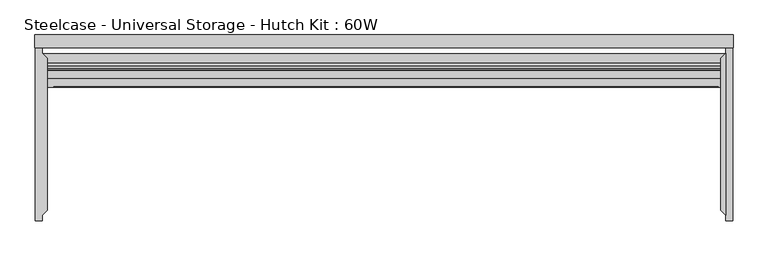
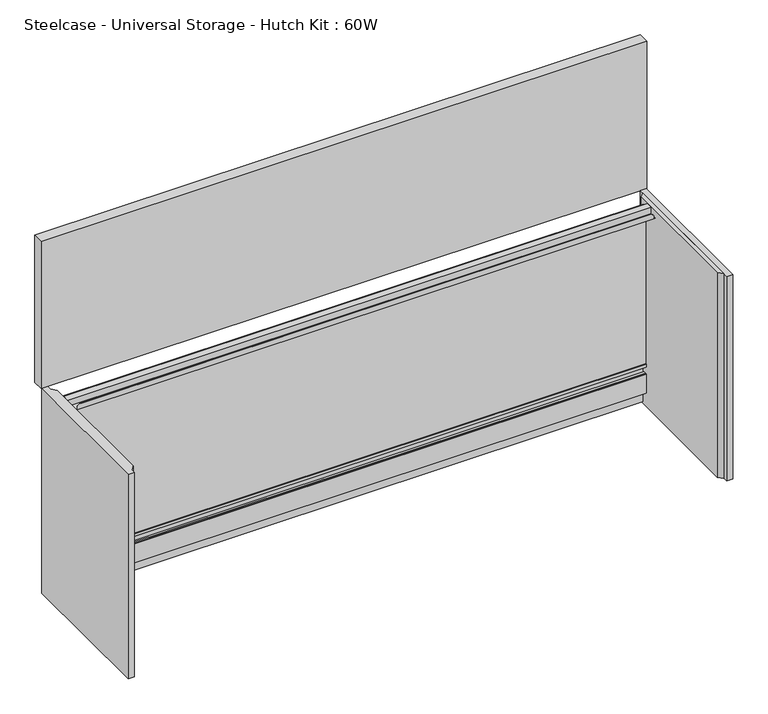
"""IFC4 building model written with IfcOpenShell, lengths in millimetres: furniture geometry, Steelcase - Universal Storage - Hutch Kit : 60W."""

import ifcopenshell
import ifcopenshell.guid

model = None  # the IFC model being written
_history = None  # IfcOwnerHistory: only IFC2X3 demands one
_inside = {}  # id of a spatial element -> (the spatial element, [elements in it])
_under = {}  # id of a project, library or spatial element -> (it, [spatial elements below it])
_declared = {}  # id of a project -> (the project, [libraries it declares])
_typed = {}  # id of a type object -> (the type object, [elements of that type])
_made_of = {}  # id of a material, layer set ... -> (it, [elements and type objects made of it])


def new_model(schema):
    """Start an empty IFC model of exactly this schema.

    Asked for "IFC4X3", IfcOpenShell would pick the latest addendum, in which some entities
    have other attributes; the version numbers below select the first issue.
    IFC2X3 requires an IfcOwnerHistory on every rooted entity: one is made here for all.
    """
    global model, _history
    if schema == "IFC4X3":
        model = ifcopenshell.file(schema_version=(4, 3, 0, 0))
    else:
        model = ifcopenshell.file(schema=schema)
    _inside.clear()
    _under.clear()
    _declared.clear()
    _typed.clear()
    _made_of.clear()
    _history = None
    if model.schema == "IFC2X3":
        org = make("IfcOrganization", Name="unknown")
        user = make(
            "IfcPersonAndOrganization",
            ThePerson=make("IfcPerson", FamilyName="unknown"),
            TheOrganization=org,
        )
        app = make(
            "IfcApplication",
            ApplicationDeveloper=org,
            Version="unknown",
            ApplicationFullName="unknown",
            ApplicationIdentifier="unknown",
        )
        _history = make(
            "IfcOwnerHistory",
            OwningUser=user,
            OwningApplication=app,
            ChangeAction="ADDED",
            CreationDate=0,
        )
    return model


def make(cls, **values):
    """One entity of the class cls with the attributes given. An attribute that is None is left unset."""
    return model.create_entity(
        cls, **{name: value for name, value in values.items() if value is not None}
    )


def rooted(cls, **values):
    """An entity with a GlobalId (a new one), such as an element, a storey or a relation."""
    return make(cls, GlobalId=ifcopenshell.guid.new(), OwnerHistory=_history, **values)


def si_unit(unit_type, name, prefix=None):
    """IfcSIUnit, for example si_unit("LENGTHUNIT", "METRE", prefix="MILLI")."""
    return make("IfcSIUnit", UnitType=unit_type, Prefix=prefix, Name=name)


def assignment(units):
    """IfcUnitAssignment: the units of a project."""
    return None if units is None else make("IfcUnitAssignment", Units=units)


def point(xyz):
    """IfcCartesianPoint."""
    return None if xyz is None else make("IfcCartesianPoint", Coordinates=xyz)


def direction(xyz):
    """IfcDirection."""
    return None if xyz is None else make("IfcDirection", DirectionRatios=xyz)


def frame(location, z_axis=None, x_axis=None):
    """IfcAxis2Placement3D, a coordinate frame: its origin and axes. An axis left out is left unset."""
    return make(
        "IfcAxis2Placement3D",
        Location=point(location),
        Axis=direction(z_axis),
        RefDirection=direction(x_axis),
    )


def origin():
    """The frame at (0, 0, 0) with its axes left unset."""
    return frame((0.0, 0.0, 0.0))


def place(relative_to, where):
    """IfcLocalPlacement: puts the frame where relative to a parent placement (None: the world)."""
    return make(
        "IfcLocalPlacement", PlacementRelTo=relative_to, RelativePlacement=where
    )


def context(
    kind, dimensions, precision=None, world=None, true_north=None, identifier=None
):
    """IfcGeometricRepresentationContext, for example the 3D "Model" context."""
    return make(
        "IfcGeometricRepresentationContext",
        ContextIdentifier=identifier,
        ContextType=kind,
        CoordinateSpaceDimension=dimensions,
        Precision=precision,
        WorldCoordinateSystem=world,
        TrueNorth=true_north,
    )


def project(units=None, contexts=None):
    """IfcProject with its units and contexts."""
    return rooted(
        "IfcProject",
        Name="project",
        RepresentationContexts=contexts,
        UnitsInContext=assignment(units),
    )


def spatial(cls, under=None, at=None, **own):
    """A site, building, storey or space (cls), placed at a placement, below another one or the project."""
    s = rooted(cls, ObjectPlacement=at, **own)
    if under is not None:
        _under.setdefault(under.id(), (under, []))[1].append(s)
    return s


def polyline(points):
    """IfcPolyline through the points."""
    return make("IfcPolyline", Points=[point(p) for p in points])


def circle_curve(where, radius):
    """IfcCircle in the frame where."""
    return make("IfcCircle", Position=where, Radius=radius)


def outline(outer, holes=None, kind="AREA"):
    """IfcArbitraryClosedProfileDef: a profile drawn as a closed curve; with holes, ...WithVoids."""
    if holes is None:
        return make("IfcArbitraryClosedProfileDef", ProfileType=kind, OuterCurve=outer)
    return make(
        "IfcArbitraryProfileDefWithVoids",
        ProfileType=kind,
        OuterCurve=outer,
        InnerCurves=holes,
    )


def extrude(swept, where, along, depth):
    """IfcExtrudedAreaSolid: the profile swept, set in the frame where, extruded along a direction by depth."""
    return make(
        "IfcExtrudedAreaSolid",
        SweptArea=swept,
        Position=where,
        ExtrudedDirection=direction(along),
        Depth=depth,
    )


def faces_of(points, faces, orient=None, outer=None):
    """IfcFace entities. A face is a list of loops; a loop is a list of indices into points, from 0.

    orient and outer hold one flag for each loop. By default every Orientation is true, the
    first loop of a face is its IfcFaceOuterBound and the others are IfcFaceBound.
    """
    made = []
    for i, loops in enumerate(faces):
        bounds = []
        for j, loop in enumerate(loops):
            is_outer = j == 0 if outer is None else outer[i][j]
            bounds.append(
                make(
                    "IfcFaceOuterBound" if is_outer else "IfcFaceBound",
                    Bound=make("IfcPolyLoop", Polygon=[points[k] for k in loop]),
                    Orientation=True if orient is None else orient[i][j],
                )
            )
        made.append(make("IfcFace", Bounds=bounds))
    return made


def faceted_brep(points, faces, orient=None, outer=None, voids=None):
    """IfcFacetedBrep: a solid bounded by flat faces; with voids (closed shells), ...WithVoids."""
    shared = [point(p) for p in points]
    hull = make("IfcClosedShell", CfsFaces=faces_of(shared, faces, orient, outer))
    if voids is None:
        return make("IfcFacetedBrep", Outer=hull)
    return make(
        "IfcFacetedBrepWithVoids",
        Outer=hull,
        Voids=[
            make(cls, CfsFaces=faces_of(shared, fs, o, b)) for cls, fs, o, b in voids
        ],
    )


def shape(context_of_items, identifier, shape_type, items):
    """IfcShapeRepresentation: the items that make up one representation, for example the "Body"."""
    return make(
        "IfcShapeRepresentation",
        ContextOfItems=context_of_items,
        RepresentationIdentifier=identifier,
        RepresentationType=shape_type,
        Items=items,
    )


def source(mapping_origin, context_of_items, identifier, shape_type, items):
    """IfcRepresentationMap: a shape defined once, which mapped items show again and again."""
    return make(
        "IfcRepresentationMap",
        MappingOrigin=mapping_origin,
        MappedRepresentation=shape(context_of_items, identifier, shape_type, items),
    )


def transform(
    local_origin,
    x_axis=None,
    y_axis=None,
    z_axis=None,
    scale=None,
    scale2=None,
    scale3=None,
    uniform=True,
):
    """IfcCartesianTransformationOperator3D, or its non-uniform kind. x_axis, y_axis, z_axis: its Axis1, 2, 3."""
    if uniform:
        return make(
            "IfcCartesianTransformationOperator3D",
            Axis1=direction(x_axis),
            Axis2=direction(y_axis),
            LocalOrigin=point(local_origin),
            Scale=scale,
            Axis3=direction(z_axis),
        )
    return make(
        "IfcCartesianTransformationOperator3DnonUniform",
        Axis1=direction(x_axis),
        Axis2=direction(y_axis),
        LocalOrigin=point(local_origin),
        Scale=scale,
        Axis3=direction(z_axis),
        Scale2=scale2,
        Scale3=scale3,
    )


def mapped(mapping_source, mapping_target):
    """IfcMappedItem: shows the shape of a source again, moved by a transform."""
    return make(
        "IfcMappedItem", MappingSource=mapping_source, MappingTarget=mapping_target
    )


def made_of(thing, what):
    """Note that an element or type object is made of a material, layer set ...; save() writes the relation."""
    if what is not None:
        _made_of.setdefault(what.id(), (what, []))[1].append(thing)
    return thing


def element(
    cls,
    number,
    at=None,
    inside=None,
    cuts=None,
    type_object=None,
    material=None,
    context=None,
    identifier="Body",
    shape_type=None,
    held_by="IfcProductDefinitionShape",
    body=None,
    shapes=None,
    **own,
):
    """One element of the class cls, such as IfcWall. Its Tag is "e" and its number.

    at: its placement. inside: the storey or other place that contains it. cuts: it is an
    opening in that element (IfcRelVoidsElement). A single representation is given by context,
    identifier, shape_type and body (its items); several are given by shapes. held_by: the class
    of the entity that holds the representations. save() writes the other relations.
    """
    e = rooted(cls, Tag="e%d" % number, ObjectPlacement=at, **own)
    if body is not None:
        shapes = [shape(context, identifier, shape_type, body)]
    if shapes is not None:
        e.Representation = make(held_by, Representations=shapes)
    if inside is not None:
        _inside.setdefault(inside.id(), (inside, []))[1].append(e)
    if cuts is not None:
        rooted(
            "IfcRelVoidsElement", RelatingBuildingElement=cuts, RelatedOpeningElement=e
        )
    if type_object is not None:
        _typed.setdefault(type_object.id(), (type_object, []))[1].append(e)
    return made_of(e, material)


def aggregate(whole, parts):
    """IfcRelAggregates: a whole, such as a stair, and the parts it consists of."""
    return rooted("IfcRelAggregates", RelatingObject=whole, RelatedObjects=parts)


def save(model, path):
    """Write the relations noted so far, then the file.

    IfcRelAggregates (storeys below a building ...), IfcRelContainedInSpatialStructure (elements
    in a storey), IfcRelDefinesByType, IfcRelAssociatesMaterial and IfcRelDeclares: one each for
    every whole, place, type object, material and project.
    """
    for whole, parts in _under.values():
        aggregate(whole, parts)
    for where, things in _inside.values():
        rooted(
            "IfcRelContainedInSpatialStructure",
            RelatedElements=things,
            RelatingStructure=where,
        )
    for kind, things in _typed.values():
        rooted("IfcRelDefinesByType", RelatedObjects=things, RelatingType=kind)
    for what, things in _made_of.values():
        rooted("IfcRelAssociatesMaterial", RelatedObjects=things, RelatingMaterial=what)
    for by, libraries in _declared.values():
        rooted("IfcRelDeclares", RelatingContext=by, RelatedDefinitions=libraries)
    model.write(path)


def plane_surface(at):
    """IfcPlane: the flat surface through the origin of the frame at, square to its z axis."""
    return make("IfcPlane", Position=at)


def cylinder_surface(at, radius):
    """IfcCylindricalSurface: all points at the distance radius from the z axis of the frame at."""
    return make("IfcCylindricalSurface", Position=at, Radius=radius)


def advanced_brep(points, edges, surfaces, faces):
    """IfcAdvancedBrep: a solid bounded by faces that lie on surfaces and meet in shared edges.

    An edge is (start, end): straight between two places in points (the first is 0);
    or (start, end, curve); or (start, end, curve, False) where it runs against its curve.
    A face is (place in surfaces, loops), or (place, loops, False) where it looks against
    its surface's normal. A loop lists edges by number (the first is 1), with a minus sign
    where the edge is run from its end to its start. The first loop is the outer one.
    """
    corners = [point(p) for p in points]
    vertices = [make("IfcVertexPoint", VertexGeometry=c) for c in corners]
    made = []
    for start, end, *more in edges:
        made.append(
            make(
                "IfcEdgeCurve",
                EdgeStart=vertices[start],
                EdgeEnd=vertices[end],
                EdgeGeometry=more[0] if more else make("IfcPolyline", Points=[corners[start], corners[end]]),
                SameSense=more[1] if len(more) > 1 else True,
            )
        )
    hull = []
    for where, loops, *sense in faces:
        bounds = []
        for j, loop in enumerate(loops):
            ring = [make("IfcOrientedEdge", EdgeElement=made[abs(k) - 1], Orientation=k > 0) for k in loop]
            bounds.append(
                make(
                    "IfcFaceOuterBound" if j == 0 else "IfcFaceBound",
                    Bound=make("IfcEdgeLoop", EdgeList=ring),
                    Orientation=True,
                )
            )
        hull.append(make("IfcAdvancedFace", Bounds=bounds, FaceSurface=surfaces[where], SameSense=sense[0] if sense else True))
    return make("IfcAdvancedBrep", Outer=make("IfcClosedShell", CfsFaces=hull))


def steelcase_universal_storage_hutch_kit_60w_dc1660c2(model_context):
    return source(origin(), model_context, "Body", "SolidModel", [
        extrude(outline(polyline([(1507.8202, -39.6494001), (1507.8202, -393.4459972), (1496.822, -382.447795), (1496.822, -50.6476006), (1507.8202, -39.6494001)])), frame((0.0, 0.0, 723.9), z_axis=(0.0, 0.0, 1.0), x_axis=(1.0, 0.0, 0.0)), (0.0, 0.0, 1.0), 544.8554),
        extrude(outline(polyline([(1507.8202, -27.9400006), (1523.1872, -27.9400006), (1523.1872, -405.1553842), (1507.8202, -405.1553842), (1507.8202, -27.9400006)])), frame((0.0, 0.0, 723.9), z_axis=(0.0, 0.0, 1.0), x_axis=(1.0, 0.0, 0.0)), (0.0, 0.0, 1.0), 544.8554),
        extrude(outline(polyline([(16.1798, -405.1553842), (0.8128, -405.1553842), (0.8128, -27.9400006), (16.1798, -27.9400006), (16.1798, -39.6494001), (27.178, -50.6476006), (27.178, -382.447795), (16.1798, -393.4459972), (16.1798, -405.1553842)])), frame((0.0, 0.0, 723.9), z_axis=(0.0, 0.0, 1.0), x_axis=(1.0, 0.0, 0.0)), (0.0, 0.0, 1.0), 544.8554),
        advanced_brep(
        [(1496.822, -78.4097988, 1250.975386), (1496.822, -78.4097988, 1268.7554), (1496.822, -94.7420005, 1268.7554), (1496.822, -94.7420005, 1251.8898651), (1496.822, -114.2492006, 1251.8898651), (1496.822, -114.2492006, 1250.975386), (1496.822, -93.8275986, 1250.975386), (1496.822, -93.8275986, 1267.8410717), (1496.822, -79.3242007, 1267.8410717), (1496.822, -79.3242007, 1250.975386), (27.178, -78.4097988, 1250.975386), (27.178, -79.3242007, 1250.975386), (27.178, -79.3242007, 1267.8410717), (27.178, -93.8275986, 1267.8410717), (27.178, -93.8275986, 1250.975386), (27.178, -114.2492006, 1250.975386), (27.178, -114.2492006, 1251.8898651), (27.178, -94.7420005, 1251.8898651), (27.178, -94.7420005, 1268.7554), (27.178, -78.4097988, 1268.7554), (40.5892014, -114.2492006, 1251.8898651), (40.5892014, -113.3348006, 1251.8898651), (1492.2809148, -113.3348006, 1251.8898651), (1492.2809148, -114.2492006, 1251.8898651), (1492.2809148, -114.2492006, 1256.0554636), (1483.3909148, -114.2492006, 1264.9454636), (49.4792014, -114.2492006, 1264.9454636), (40.5892014, -114.2492006, 1256.0554636), (40.5892014, -113.3348006, 1256.0554636), (49.4792014, -113.3348006, 1264.9454636), (1483.3909148, -113.3348006, 1264.9454636), (1492.2809148, -113.3348006, 1256.0554636)],
        [
            (0, 1),
            (1, 2),
            (2, 3),
            (3, 4),
            (4, 5),
            (5, 6),
            (6, 7),
            (7, 8),
            (8, 9),
            (9, 0),
            (10, 11),
            (11, 12),
            (12, 13),
            (13, 14),
            (14, 15),
            (15, 16),
            (16, 17),
            (17, 18),
            (18, 19),
            (19, 10),
            (0, 10),
            (19, 1),
            (18, 2),
            (17, 3),
            (16, 20),
            (20, 21),
            (21, 22),
            (22, 23),
            (23, 4),
            (23, 24),
            (24, 25, circle_curve(frame((1483.3909148, -114.2492006, 1256.0554636), z_axis=(0.0, -1.0, 0.0), x_axis=(1.0, 0.0, 0.0)), 8.89)),
            (25, 26),
            (26, 27, circle_curve(frame((49.4792014, -114.2492006, 1256.0554636), z_axis=(0.0, -1.0, 0.0), x_axis=(1.0, 0.0, 0.0)), 8.89)),
            (27, 20),
            (15, 5),
            (14, 6),
            (13, 7),
            (12, 8),
            (11, 9),
            (28, 29, circle_curve(frame((49.4792014, -113.3348006, 1256.0554636), z_axis=(0.0, 1.0, 0.0), x_axis=(1.0, 0.0, 0.0)), 8.89)),
            (29, 30),
            (30, 31, circle_curve(frame((1483.3909148, -113.3348006, 1256.0554636), z_axis=(0.0, 1.0, 0.0), x_axis=(1.0, 0.0, 0.0)), 8.89)),
            (31, 22),
            (21, 28),
            (27, 28),
            (31, 24),
            (30, 25),
            (29, 26),
        ],
        [
            plane_surface(frame((1496.822, -78.4097988, 1268.7554), z_axis=(1.0, 0.0, 0.0), x_axis=(0.0, 0.0, 1.0))),
            plane_surface(frame((27.178, -78.4097988, 1268.7554), z_axis=(-1.0, 0.0, 0.0), x_axis=(0.0, 0.0, -1.0))),
            plane_surface(frame((1496.822, -78.4097988, 1250.975386), z_axis=(0.0, 1.0, 0.0), x_axis=(-1.0, 0.0, 0.0))),
            plane_surface(frame((1496.822, -78.4097988, 1268.7554), z_axis=(0.0, 0.0, 1.0), x_axis=(-1.0, 0.0, 0.0))),
            plane_surface(frame((1496.822, -94.7420005, 1268.7554), z_axis=(0.0, -1.0, 0.0), x_axis=(-1.0, 0.0, 0.0))),
            plane_surface(frame((1496.822, -94.7420005, 1251.8898651), z_axis=(0.0, 0.0, 1.0), x_axis=(-1.0, 0.0, 0.0))),
            plane_surface(frame((1496.822, -114.2492006, 1251.8898651), z_axis=(0.0, -1.0, 0.0), x_axis=(-1.0, 0.0, 0.0))),
            plane_surface(frame((1496.822, -114.2492006, 1250.975386), z_axis=(0.0, 0.0, -1.0), x_axis=(-1.0, 0.0, 0.0))),
            plane_surface(frame((1496.822, -93.8275986, 1250.975386), z_axis=(0.0, 1.0, 0.0), x_axis=(-1.0, 0.0, 0.0))),
            plane_surface(frame((1496.822, -93.8275986, 1267.8410717), z_axis=(0.0, 0.0, -1.0), x_axis=(-1.0, 0.0, 0.0))),
            plane_surface(frame((1496.822, -79.3242007, 1267.8410717), z_axis=(0.0, -1.0, 0.0), x_axis=(-1.0, 0.0, 0.0))),
            plane_surface(frame((1496.822, -79.3242007, 1250.975386), z_axis=(0.0, 0.0, -1.0), x_axis=(-1.0, 0.0, 0.0))),
            plane_surface(frame((40.5892014, -113.3348006, 1251.8898651), z_axis=(0.0, 1.0, 0.0), x_axis=(0.0, 0.0, 1.0))),
            plane_surface(frame((40.5892014, -114.2492006, 1256.0554636), z_axis=(-1.0, 0.0, 0.0), x_axis=(0.0, 1.0, 0.0))),
            plane_surface(frame((1492.2809148, -114.2492006, 1251.8898651), z_axis=(1.0, 0.0, 0.0), x_axis=(0.0, 1.0, 0.0))),
            cylinder_surface(frame((1483.3909148, -113.3348006, 1256.0554636), z_axis=(0.0, -1.0, 0.0), x_axis=(1.0, 0.0, 0.0)), 8.89),
            plane_surface(frame((1483.3909148, -114.2492006, 1264.9454636), z_axis=(0.0, 0.0, 1.0), x_axis=(0.0, 1.0, 0.0))),
            cylinder_surface(frame((49.4792014, -113.3348006, 1256.0554636), z_axis=(0.0, -1.0, 0.0), x_axis=(1.0, 0.0, 0.0)), 8.89),
        ],
        [
            (0, [[1, 2, 3, 4, 5, 6, 7, 8, 9, 10]]),
            (1, [[11, 12, 13, 14, 15, 16, 17, 18, 19, 20]]),
            (2, [[-1, 21, -20, 22]]),
            (3, [[-2, -22, -19, 23]]),
            (4, [[-3, -23, -18, 24]]),
            (5, [[-4, -24, -17, 25, 26, 27, 28, 29]]),
            (6, [[-5, -29, 30, 31, 32, 33, 34, -25, -16, 35]]),
            (7, [[-6, -35, -15, 36]]),
            (8, [[-7, -36, -14, 37]]),
            (9, [[-8, -37, -13, 38]]),
            (10, [[-9, -38, -12, 39]]),
            (11, [[-10, -39, -11, -21]]),
            (12, [[40, 41, 42, 43, -27, 44]]),
            (13, [[-34, 45, -44, -26]]),
            (14, [[-30, -28, -43, 46]]),
            (15, [[-31, -46, -42, 47]]),
            (16, [[-32, -47, -41, 48]]),
            (17, [[-33, -48, -40, -45]]),
        ],
    ),
        faceted_brep([(1496.822, -60.7822002, 848.0044), (1496.822, -60.7822002, 833.8820223), (1496.822, -74.2695991, 833.8820223), (1496.822, -74.2695991, 839.215999), (1496.822, -75.7936022, 839.215999), (1496.822, -75.7936022, 831.8500242), (1496.822, -60.7652681, 831.8500242), (1496.822, -60.7652681, 808.7613899), (1496.822, -64.6684001, 808.7613899), (1496.822, -64.6684001, 812.8000242), (1496.822, -70.7136025, 812.8000242), (1496.822, -70.7136025, 806.4499758), (1496.822, -74.2695991, 806.4499758), (1496.822, -74.2695991, 812.8000242), (1496.822, -75.7936022, 812.8000242), (1496.822, -75.7936022, 762.0), (1496.822, -60.7652681, 762.0), (1496.822, -60.7652681, 730.377), (1496.822, -50.6476006, 730.377), (1496.822, -50.6476006, 848.0044), (27.178, -60.7822002, 848.0044), (27.178, -50.6476006, 848.0044), (27.178, -50.6476006, 730.377), (27.178, -60.7652681, 730.377), (27.178, -60.7652681, 762.0), (27.178, -75.7936022, 762.0), (27.178, -75.7936022, 812.8000242), (27.178, -74.2695991, 812.8000242), (27.178, -74.2695991, 806.4499758), (27.178, -70.7136025, 806.4499758), (27.178, -70.7136025, 812.8000242), (27.178, -64.6684001, 812.8000242), (27.178, -64.6684001, 808.7613899), (27.178, -60.7652681, 808.7613899), (27.178, -60.7652681, 831.8500242), (27.178, -75.7936022, 831.8500242), (27.178, -75.7936022, 839.215999), (27.178, -74.2695991, 839.215999), (27.178, -74.2695991, 833.8820223), (27.178, -60.7822002, 833.8820223), (16.1798, -50.6476006, 730.377), (16.1798, -41.1480006, 730.377), (1507.8202, -41.1480006, 730.377), (1507.8202, -50.6476006, 730.377), (1507.8202, -50.6476006, 848.0044), (1507.8202, -41.1480006, 848.0044), (16.1798, -41.1480006, 848.0044), (16.1798, -50.6476006, 848.0044)], [[[0, 1, 2, 3, 4, 5, 6, 7, 8, 9, 10, 11, 12, 13, 14, 15, 16, 17, 18, 19]], [[20, 21, 22, 23, 24, 25, 26, 27, 28, 29, 30, 31, 32, 33, 34, 35, 36, 37, 38, 39]], [[1, 0, 20, 39]], [[2, 1, 39, 38]], [[3, 2, 38, 37]], [[4, 3, 37, 36]], [[5, 4, 36, 35]], [[6, 5, 35, 34]], [[7, 6, 34, 33]], [[8, 7, 33, 32]], [[9, 8, 32, 31]], [[10, 9, 31, 30]], [[11, 10, 30, 29]], [[12, 11, 29, 28]], [[13, 12, 28, 27]], [[14, 13, 27, 26]], [[15, 14, 26, 25]], [[16, 15, 25, 24]], [[17, 16, 24, 23]], [[18, 17, 23, 22, 40, 41, 42, 43]], [[0, 19, 44, 45, 46, 47, 21, 20]], [[44, 43, 42, 45]], [[47, 46, 41, 40]], [[43, 44, 19, 18]], [[47, 40, 22, 21]], [[45, 42, 41, 46]]]),
        extrude(outline(polyline([(1496.822, -61.9759999), (1496.822, -67.5258996), (27.178, -67.5258996), (27.178, -61.9759999), (1496.822, -61.9759999)])), frame((0.0, 0.0, 833.8820223), z_axis=(0.0, 0.0, 1.0), x_axis=(1.0, 0.0, 0.0)), (0.0, 0.0, 1.0), 423.4941359),
        extrude(outline(polyline([(1496.822, -67.5258996), (1496.822, -73.0618558), (27.178, -73.0618558), (27.178, -67.5258996), (1496.822, -67.5258996)])), frame((0.0, 0.0, 833.8820223), z_axis=(0.0, 0.0, 1.0), x_axis=(1.0, 0.0, 0.0)), (0.0, 0.0, 1.0), 423.4941359),
        extrude(outline(polyline([(1524.0, 0.0), (1524.0, -27.9400006), (0.0, -27.9400006), (0.0, 0.0), (1524.0, 0.0)])), frame((0.0, 0.0, 1268.7554), z_axis=(0.0, 0.0, 1.0), x_axis=(1.0, 0.0, 0.0)), (0.0, 0.0, 1.0), 391.9220132),
    ])


if __name__ == "__main__":
    model = new_model("IFC4")
    model_context = context("Model", 3, world=origin())
    ifc_project = project(units=[si_unit("LENGTHUNIT", "METRE", prefix="MILLI")], contexts=[model_context])
    site = spatial("IfcSite", under=ifc_project)
    building = spatial("IfcBuilding", under=site)
    placement = place(None, origin())
    steelcase_universal_storage_hutch_kit_60w_shape = steelcase_universal_storage_hutch_kit_60w_dc1660c2(model_context)
    element("IfcFurniture", 1, ObjectType="Steelcase - Universal Storage - Hutch Kit : 60W", at=placement, inside=building, context=model_context, shape_type="MappedRepresentation", body=[
        mapped(steelcase_universal_storage_hutch_kit_60w_shape, transform((0.0, 0.0, 0.0), x_axis=(1.0, 0.0, 0.0), y_axis=(0.0, 1.0, 0.0), z_axis=(0.0, 0.0, 1.0))),
    ])
    save(model, "model.ifc")
